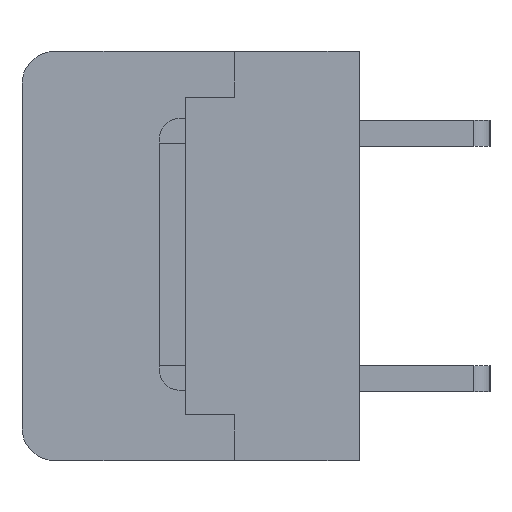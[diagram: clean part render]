
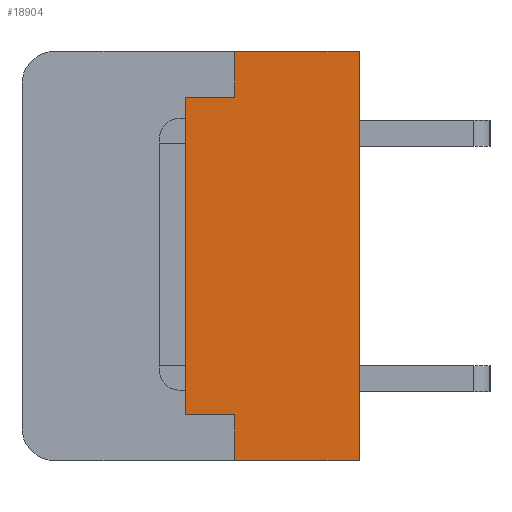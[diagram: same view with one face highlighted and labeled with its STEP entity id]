
A CAD part, left-side view. The second image highlights one B-rep face of the part: STEP entity #18904.
In plain terms, the highlighted planar face has unit normal (-1, 0, 0).
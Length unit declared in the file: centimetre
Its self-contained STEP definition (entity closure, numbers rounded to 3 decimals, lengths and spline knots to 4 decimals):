
#1182=PLANE('',#30785);
#1900=VECTOR('',#20160,1.);
#1997=VECTOR('',#20313,1.);
#2019=VECTOR('',#20336,1.);
#2757=VECTOR('',#21974,1.);
#2947=VECTOR('',#22404,1.);
#2948=VECTOR('',#22405,1.);
#2949=VECTOR('',#22406,1.);
#2950=VECTOR('',#22407,1.);
#3924=LINE('',#25022,#1900);
#4021=LINE('',#25242,#1997);
#4043=LINE('',#25285,#2019);
#4781=LINE('',#27625,#2757);
#4971=LINE('',#28228,#2947);
#4972=LINE('',#28230,#2948);
#4973=LINE('',#28231,#2949);
#4974=LINE('',#28233,#2950);
#5882=VERTEX_POINT('',#25021);
#5883=VERTEX_POINT('',#25023);
#5941=VERTEX_POINT('',#25190);
#5966=VERTEX_POINT('',#25241);
#5986=VERTEX_POINT('',#25284);
#5987=VERTEX_POINT('',#25286);
#6866=VERTEX_POINT('',#28229);
#6867=VERTEX_POINT('',#28232);
#8295=EDGE_CURVE('',#5882,#5883,#3924,.T.);
#8404=EDGE_CURVE('',#5966,#5941,#4021,.T.);
#8426=EDGE_CURVE('',#5986,#5987,#4043,.T.);
#9502=EDGE_CURVE('',#5941,#5986,#4781,.T.);
#9780=EDGE_CURVE('',#6866,#5966,#4971,.T.);
#9781=EDGE_CURVE('',#5883,#6866,#4972,.T.);
#9782=EDGE_CURVE('',#6867,#5882,#4973,.T.);
#9783=EDGE_CURVE('',#5987,#6867,#4974,.T.);
#14789=ORIENTED_EDGE('',*,*,#9780,.F.);
#14790=ORIENTED_EDGE('',*,*,#9781,.F.);
#14791=ORIENTED_EDGE('',*,*,#8295,.F.);
#14792=ORIENTED_EDGE('',*,*,#9782,.F.);
#14793=ORIENTED_EDGE('',*,*,#9783,.F.);
#14794=ORIENTED_EDGE('',*,*,#8426,.F.);
#14795=ORIENTED_EDGE('',*,*,#9502,.F.);
#14796=ORIENTED_EDGE('',*,*,#8404,.F.);
#16719=EDGE_LOOP('',(#14789,#14790,#14791,#14792,#14793,#14794,#14795,#14796));
#17853=FACE_BOUND('',#16719,.T.);
#18904=ADVANCED_FACE('',(#17853),#1182,.F.);
#20160=DIRECTION('',(0.,0.,1.));
#20313=DIRECTION('',(0.,-1.,0.));
#20336=DIRECTION('',(0.,1.,0.));
#21974=DIRECTION('',(0.,0.,-1.));
#22403=DIRECTION('',(1.,0.,0.));
#22404=DIRECTION('',(0.,0.,1.));
#22405=DIRECTION('',(0.,-1.,0.));
#22406=DIRECTION('',(0.,1.,0.));
#22407=DIRECTION('',(0.,0.,1.));
#25021=CARTESIAN_POINT('',(-1.382,0.53,-0.485));
#25022=CARTESIAN_POINT('',(-1.382,0.53,-0.485));
#25023=CARTESIAN_POINT('',(-1.382,0.53,0.485));
#25190=CARTESIAN_POINT('',(-1.382,0.,0.625));
#25241=CARTESIAN_POINT('',(-1.382,0.38,0.625));
#25242=CARTESIAN_POINT('',(-1.382,0.38,0.625));
#25284=CARTESIAN_POINT('',(-1.382,0.,-0.625));
#25285=CARTESIAN_POINT('',(-1.382,0.,-0.625));
#25286=CARTESIAN_POINT('',(-1.382,0.38,-0.625));
#27625=CARTESIAN_POINT('',(-1.382,0.,0.625));
#28227=CARTESIAN_POINT('',(-1.382,0.2532,0.));
#28228=CARTESIAN_POINT('',(-1.382,0.38,0.485));
#28229=CARTESIAN_POINT('',(-1.382,0.38,0.485));
#28230=CARTESIAN_POINT('',(-1.382,0.53,0.485));
#28231=CARTESIAN_POINT('',(-1.382,0.38,-0.485));
#28232=CARTESIAN_POINT('',(-1.382,0.38,-0.485));
#28233=CARTESIAN_POINT('',(-1.382,0.38,-0.625));
#30785=AXIS2_PLACEMENT_3D('',#28227,#22403,$);
